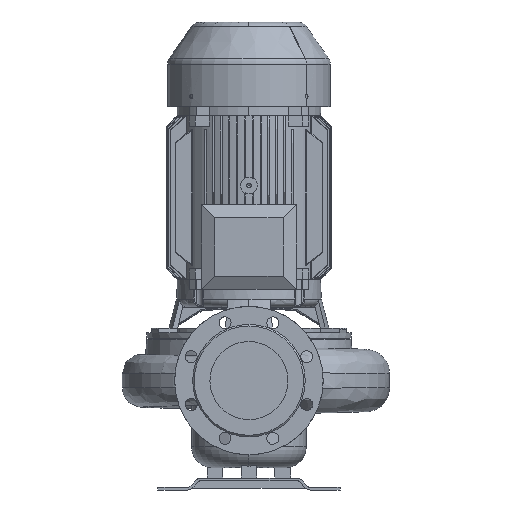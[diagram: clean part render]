
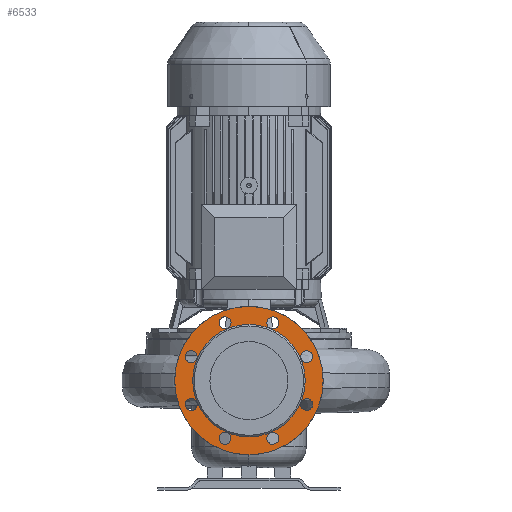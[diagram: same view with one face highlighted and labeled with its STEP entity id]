
A CAD part, front view. The second image highlights one B-rep face of the part: STEP entity #6533.
In plain terms, the highlighted planar face has unit normal (0, -1, 0) as drawn and (0, 1, 0) by its records, which use the part's own axes.
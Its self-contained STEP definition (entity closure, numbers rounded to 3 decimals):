
#6533=ADVANCED_FACE('',(#13649,#13650,#13651,#13652,#13653,#13654,#13655,#13656,#13657,#13658),#13659,.T.);
#6561=EDGE_CURVE('',#13702,#13703,#13704,.T.);
#6565=EDGE_CURVE('',#13710,#13711,#13712,.T.);
#6569=EDGE_CURVE('',#13718,#13719,#13720,.T.);
#6573=EDGE_CURVE('',#13726,#13727,#13728,.T.);
#6577=EDGE_CURVE('',#13734,#13735,#13736,.T.);
#6581=EDGE_CURVE('',#13742,#13743,#13744,.T.);
#6585=EDGE_CURVE('',#13750,#13751,#13752,.T.);
#6589=EDGE_CURVE('',#13758,#13759,#13760,.T.);
#6593=EDGE_CURVE('',#13766,#13767,#13768,.T.);
#6595=EDGE_CURVE('',#13770,#13771,#13772,.T.);
#6767=EDGE_CURVE('',#13771,#13770,#14030,.T.);
#6785=EDGE_CURVE('',#13767,#13766,#14048,.T.);
#6787=EDGE_CURVE('',#13759,#13758,#14050,.T.);
#6789=EDGE_CURVE('',#13751,#13750,#14052,.T.);
#6791=EDGE_CURVE('',#13743,#13742,#14054,.T.);
#6793=EDGE_CURVE('',#13735,#13734,#14056,.T.);
#6795=EDGE_CURVE('',#13727,#13726,#14058,.T.);
#6797=EDGE_CURVE('',#13719,#13718,#14060,.T.);
#6799=EDGE_CURVE('',#13711,#13710,#14062,.T.);
#6801=EDGE_CURVE('',#13703,#13702,#14064,.T.);
#13649=FACE_OUTER_BOUND('',#23287,.T.);
#13650=FACE_BOUND('',#23288,.T.);
#13651=FACE_BOUND('',#23289,.T.);
#13652=FACE_BOUND('',#23290,.T.);
#13653=FACE_BOUND('',#23291,.T.);
#13654=FACE_BOUND('',#23292,.T.);
#13655=FACE_BOUND('',#23293,.T.);
#13656=FACE_BOUND('',#23294,.T.);
#13657=FACE_BOUND('',#23295,.T.);
#13658=FACE_BOUND('',#23296,.T.);
#13659=PLANE('',#23297);
#13702=VERTEX_POINT('',#24361);
#13703=VERTEX_POINT('',#24362);
#13704=CIRCLE('',#24363,108.0);
#13710=VERTEX_POINT('',#24371);
#13711=VERTEX_POINT('',#24372);
#13712=CIRCLE('',#24373,11.5);
#13718=VERTEX_POINT('',#24381);
#13719=VERTEX_POINT('',#24382);
#13720=CIRCLE('',#24383,11.5);
#13726=VERTEX_POINT('',#24391);
#13727=VERTEX_POINT('',#24392);
#13728=CIRCLE('',#24393,11.5);
#13734=VERTEX_POINT('',#24401);
#13735=VERTEX_POINT('',#24402);
#13736=CIRCLE('',#24403,11.5);
#13742=VERTEX_POINT('',#24411);
#13743=VERTEX_POINT('',#24412);
#13744=CIRCLE('',#24413,11.5);
#13750=VERTEX_POINT('',#24421);
#13751=VERTEX_POINT('',#24422);
#13752=CIRCLE('',#24423,11.5);
#13758=VERTEX_POINT('',#24431);
#13759=VERTEX_POINT('',#24432);
#13760=CIRCLE('',#24433,11.5);
#13766=VERTEX_POINT('',#24441);
#13767=VERTEX_POINT('',#24442);
#13768=CIRCLE('',#24443,11.5);
#13770=VERTEX_POINT('',#24446);
#13771=VERTEX_POINT('',#24447);
#13772=CIRCLE('',#24448,142.5);
#14030=CIRCLE('',#24879,142.5);
#14048=CIRCLE('',#24906,11.5);
#14050=CIRCLE('',#24909,11.5);
#14052=CIRCLE('',#24912,11.5);
#14054=CIRCLE('',#24915,11.5);
#14056=CIRCLE('',#24918,11.5);
#14058=CIRCLE('',#24921,11.5);
#14060=CIRCLE('',#24924,11.5);
#14062=CIRCLE('',#24927,11.5);
#14064=CIRCLE('',#24930,108.0);
#23287=EDGE_LOOP('',(#43100,#43101));
#23288=EDGE_LOOP('',(#43102,#43103));
#23289=EDGE_LOOP('',(#43104,#43105));
#23290=EDGE_LOOP('',(#43106,#43107));
#23291=EDGE_LOOP('',(#43108,#43109));
#23292=EDGE_LOOP('',(#43110,#43111));
#23293=EDGE_LOOP('',(#43112,#43113));
#23294=EDGE_LOOP('',(#43114,#43115));
#23295=EDGE_LOOP('',(#43116,#43117));
#23296=EDGE_LOOP('',(#43118,#43119));
#23297=AXIS2_PLACEMENT_3D('',#43120,#43121,#43122);
#24361=CARTESIAN_POINT('',(0.,377.,-108.0));
#24362=CARTESIAN_POINT('',(0.,377.0,108.0));
#24363=AXIS2_PLACEMENT_3D('',#43224,#43225,#43226);
#24371=CARTESIAN_POINT('',(-117.353,377.0,-36.426));
#24372=CARTESIAN_POINT('',(-104.378,377.0,-55.418));
#24373=AXIS2_PLACEMENT_3D('',#43230,#43231,#43232);
#24381=CARTESIAN_POINT('',(-108.738,377.,57.224));
#24382=CARTESIAN_POINT('',(-112.993,377.,34.62));
#24383=AXIS2_PLACEMENT_3D('',#43236,#43237,#43238);
#24391=CARTESIAN_POINT('',(-36.426,377.,117.353));
#24392=CARTESIAN_POINT('',(-55.418,377.,104.378));
#24393=AXIS2_PLACEMENT_3D('',#43242,#43243,#43244);
#24401=CARTESIAN_POINT('',(57.224,377.,108.738));
#24402=CARTESIAN_POINT('',(34.62,377.,112.993));
#24403=AXIS2_PLACEMENT_3D('',#43248,#43249,#43250);
#24411=CARTESIAN_POINT('',(117.353,377.,36.426));
#24412=CARTESIAN_POINT('',(104.378,377.,55.418));
#24413=AXIS2_PLACEMENT_3D('',#43254,#43255,#43256);
#24421=CARTESIAN_POINT('',(108.738,377.,-57.224));
#24422=CARTESIAN_POINT('',(112.993,377.,-34.62));
#24423=AXIS2_PLACEMENT_3D('',#43260,#43261,#43262);
#24431=CARTESIAN_POINT('',(36.426,377.,-117.353));
#24432=CARTESIAN_POINT('',(55.418,377.0,-104.378));
#24433=AXIS2_PLACEMENT_3D('',#43266,#43267,#43268);
#24441=CARTESIAN_POINT('',(-57.224,377.,-108.738));
#24442=CARTESIAN_POINT('',(-34.62,377.,-112.993));
#24443=AXIS2_PLACEMENT_3D('',#43272,#43273,#43274);
#24446=CARTESIAN_POINT('',(0.,377.0,-142.5));
#24447=CARTESIAN_POINT('',(0.,377.,142.5));
#24448=AXIS2_PLACEMENT_3D('',#43275,#43276,#43277);
#24879=AXIS2_PLACEMENT_3D('',#43503,#43504,#43505);
#24906=AXIS2_PLACEMENT_3D('',#43530,#43531,#43532);
#24909=AXIS2_PLACEMENT_3D('',#43533,#43534,#43535);
#24912=AXIS2_PLACEMENT_3D('',#43536,#43537,#43538);
#24915=AXIS2_PLACEMENT_3D('',#43539,#43540,#43541);
#24918=AXIS2_PLACEMENT_3D('',#43542,#43543,#43544);
#24921=AXIS2_PLACEMENT_3D('',#43545,#43546,#43547);
#24924=AXIS2_PLACEMENT_3D('',#43548,#43549,#43550);
#24927=AXIS2_PLACEMENT_3D('',#43551,#43552,#43553);
#24930=AXIS2_PLACEMENT_3D('',#43554,#43555,#43556);
#43100=ORIENTED_EDGE('',*,*,#6767,.F.);
#43101=ORIENTED_EDGE('',*,*,#6595,.F.);
#43102=ORIENTED_EDGE('',*,*,#6561,.T.);
#43103=ORIENTED_EDGE('',*,*,#6801,.T.);
#43104=ORIENTED_EDGE('',*,*,#6565,.T.);
#43105=ORIENTED_EDGE('',*,*,#6799,.T.);
#43106=ORIENTED_EDGE('',*,*,#6569,.T.);
#43107=ORIENTED_EDGE('',*,*,#6797,.T.);
#43108=ORIENTED_EDGE('',*,*,#6573,.T.);
#43109=ORIENTED_EDGE('',*,*,#6795,.T.);
#43110=ORIENTED_EDGE('',*,*,#6577,.T.);
#43111=ORIENTED_EDGE('',*,*,#6793,.T.);
#43112=ORIENTED_EDGE('',*,*,#6581,.T.);
#43113=ORIENTED_EDGE('',*,*,#6791,.T.);
#43114=ORIENTED_EDGE('',*,*,#6585,.T.);
#43115=ORIENTED_EDGE('',*,*,#6789,.T.);
#43116=ORIENTED_EDGE('',*,*,#6589,.T.);
#43117=ORIENTED_EDGE('',*,*,#6787,.T.);
#43118=ORIENTED_EDGE('',*,*,#6593,.T.);
#43119=ORIENTED_EDGE('',*,*,#6785,.T.);
#43120=CARTESIAN_POINT('',(0.,377.,-125.25));
#43121=DIRECTION('',(0.0,1.0,0.0));
#43122=DIRECTION('',(0.0,0.0,1.0));
#43224=CARTESIAN_POINT('',(0.,377.0,0.));
#43225=DIRECTION('',(0.0,-1.0,0.0));
#43226=DIRECTION('',(0.,0.0,-1.0));
#43230=CARTESIAN_POINT('',(-110.866,377.0,-45.922));
#43231=DIRECTION('',(0.0,-1.0,0.0));
#43232=DIRECTION('',(-0.564,0.0,0.826));
#43236=CARTESIAN_POINT('',(-110.866,377.,45.922));
#43237=DIRECTION('',(0.0,-1.0,0.0));
#43238=DIRECTION('',(0.185,0.0,0.983));
#43242=CARTESIAN_POINT('',(-45.922,377.,110.866));
#43243=DIRECTION('',(0.0,-1.0,0.0));
#43244=DIRECTION('',(0.826,0.0,0.564));
#43248=CARTESIAN_POINT('',(45.922,377.,110.866));
#43249=DIRECTION('',(0.0,-1.0,0.0));
#43250=DIRECTION('',(0.983,0.0,-0.185));
#43254=CARTESIAN_POINT('',(110.866,377.,45.922));
#43255=DIRECTION('',(0.0,-1.0,0.0));
#43256=DIRECTION('',(0.564,0.0,-0.826));
#43260=CARTESIAN_POINT('',(110.866,377.,-45.922));
#43261=DIRECTION('',(0.0,-1.0,-0.0));
#43262=DIRECTION('',(-0.185,0.0,-0.983));
#43266=CARTESIAN_POINT('',(45.922,377.0,-110.866));
#43267=DIRECTION('',(0.0,-1.0,-0.0));
#43268=DIRECTION('',(-0.826,0.0,-0.564));
#43272=CARTESIAN_POINT('',(-45.922,377.,-110.866));
#43273=DIRECTION('',(0.0,-1.0,0.0));
#43274=DIRECTION('',(-0.983,0.0,0.185));
#43275=CARTESIAN_POINT('',(0.,377.0,0.));
#43276=DIRECTION('',(0.0,-1.0,0.0));
#43277=DIRECTION('',(0.,0.0,-1.0));
#43503=CARTESIAN_POINT('',(0.,377.0,0.));
#43504=DIRECTION('',(0.0,-1.0,0.0));
#43505=DIRECTION('',(0.,0.0,-1.0));
#43530=CARTESIAN_POINT('',(-45.922,377.,-110.866));
#43531=DIRECTION('',(0.0,-1.0,0.0));
#43532=DIRECTION('',(-0.983,0.0,0.185));
#43533=CARTESIAN_POINT('',(45.922,377.0,-110.866));
#43534=DIRECTION('',(0.0,-1.0,-0.0));
#43535=DIRECTION('',(-0.826,0.0,-0.564));
#43536=CARTESIAN_POINT('',(110.866,377.,-45.922));
#43537=DIRECTION('',(0.0,-1.0,-0.0));
#43538=DIRECTION('',(-0.185,0.0,-0.983));
#43539=CARTESIAN_POINT('',(110.866,377.,45.922));
#43540=DIRECTION('',(0.0,-1.0,0.0));
#43541=DIRECTION('',(0.564,0.0,-0.826));
#43542=CARTESIAN_POINT('',(45.922,377.,110.866));
#43543=DIRECTION('',(0.0,-1.0,0.0));
#43544=DIRECTION('',(0.983,0.0,-0.185));
#43545=CARTESIAN_POINT('',(-45.922,377.,110.866));
#43546=DIRECTION('',(0.0,-1.0,0.0));
#43547=DIRECTION('',(0.826,0.0,0.564));
#43548=CARTESIAN_POINT('',(-110.866,377.,45.922));
#43549=DIRECTION('',(0.0,-1.0,0.0));
#43550=DIRECTION('',(0.185,0.0,0.983));
#43551=CARTESIAN_POINT('',(-110.866,377.0,-45.922));
#43552=DIRECTION('',(0.0,-1.0,0.0));
#43553=DIRECTION('',(-0.564,0.0,0.826));
#43554=CARTESIAN_POINT('',(0.,377.0,0.));
#43555=DIRECTION('',(0.0,-1.0,0.0));
#43556=DIRECTION('',(0.,0.0,-1.0));
